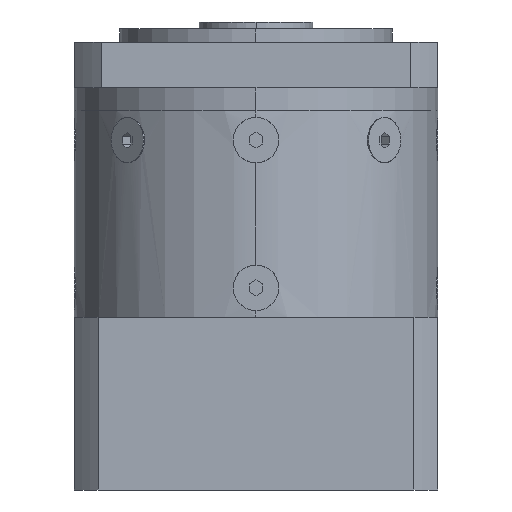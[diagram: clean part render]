
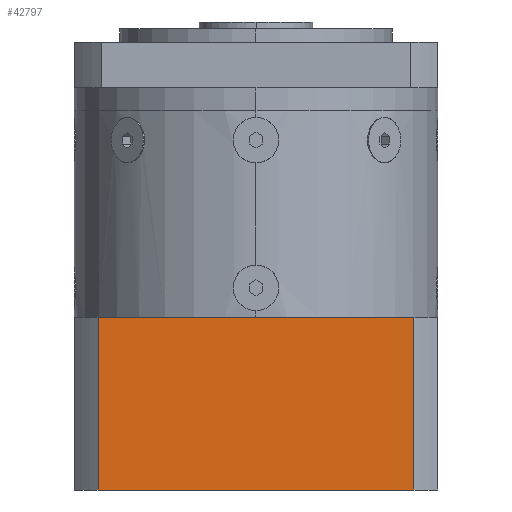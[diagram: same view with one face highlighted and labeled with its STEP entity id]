
A CAD part, left-side view. The second image highlights one B-rep face of the part: STEP entity #42797.
In plain terms, the highlighted planar face has unit normal (-1, 0, 0) as drawn and (0, -1, 0) by its records, which use the part's own axes.
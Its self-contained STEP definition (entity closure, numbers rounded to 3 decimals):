
#880 = EDGE_CURVE ( 'NONE', #39981, #27202, #10183, .T. ) ;
#2502 = EDGE_CURVE ( 'NONE', #3464, #32617, #41901, .T. ) ;
#2924 = VECTOR ( 'NONE', #33254, 1000. ) ;
#3078 = ORIENTED_EDGE ( 'NONE', *, *, #3293, .T. ) ;
#3262 = PLANE ( 'NONE',  #42453 ) ;
#3293 = EDGE_CURVE ( 'NONE', #27202, #3464, #40301, .T. ) ;
#3419 = CARTESIAN_POINT ( 'NONE',  ( -34.771, -40., 0. ) ) ;
#3464 = VERTEX_POINT ( 'NONE', #30947 ) ;
#4557 = VECTOR ( 'NONE', #15479, 1000. ) ;
#5234 = VECTOR ( 'NONE', #24517, 1000. ) ;
#6822 = DIRECTION ( 'NONE',  ( 0., -1., 0. ) ) ;
#10183 = LINE ( 'NONE', #37167, #28865 ) ;
#12608 = CARTESIAN_POINT ( 'NONE',  ( -34.771, -40., -50. ) ) ;
#15479 = DIRECTION ( 'NONE',  ( -1., 0., 0. ) ) ;
#24517 = DIRECTION ( 'NONE',  ( 0., 0., 1. ) ) ;
#27202 = VERTEX_POINT ( 'NONE', #33732 ) ;
#27881 = CARTESIAN_POINT ( 'NONE',  ( -40., -40., -50. ) ) ;
#28865 = VECTOR ( 'NONE', #37154, 1000. ) ;
#30947 = CARTESIAN_POINT ( 'NONE',  ( 34.771, -40., -12. ) ) ;
#31358 = DIRECTION ( 'NONE',  ( 0., 0., -1. ) ) ;
#32617 = VERTEX_POINT ( 'NONE', #36092 ) ;
#33137 = ORIENTED_EDGE ( 'NONE', *, *, #2502, .T. ) ;
#33254 = DIRECTION ( 'NONE',  ( 0., 0., 1. ) ) ;
#33306 = CARTESIAN_POINT ( 'NONE',  ( 34.771, -40., -50. ) ) ;
#33732 = CARTESIAN_POINT ( 'NONE',  ( 34.771, -40., -50. ) ) ;
#35557 = CARTESIAN_POINT ( 'NONE',  ( 0., -40., -12. ) ) ;
#36092 = CARTESIAN_POINT ( 'NONE',  ( -34.771, -40., -12. ) ) ;
#37154 = DIRECTION ( 'NONE',  ( 1., 0., 0. ) ) ;
#37167 = CARTESIAN_POINT ( 'NONE',  ( 0., -40., -50. ) ) ;
#37628 = ORIENTED_EDGE ( 'NONE', *, *, #880, .T. ) ;
#38658 = ORIENTED_EDGE ( 'NONE', *, *, #44059, .F. ) ;
#39981 = VERTEX_POINT ( 'NONE', #12608 ) ;
#40301 = LINE ( 'NONE', #33306, #2924 ) ;
#41901 = LINE ( 'NONE', #35557, #4557 ) ;
#42453 = AXIS2_PLACEMENT_3D ( 'NONE', #27881, #6822, #31358 ) ;
#42585 = LINE ( 'NONE', #3419, #5234 ) ;
#42797 = ADVANCED_FACE ( 'NONE', ( #45405 ), #3262, .T. ) ;
#44059 = EDGE_CURVE ( 'NONE', #39981, #32617, #42585, .T. ) ;
#44974 = EDGE_LOOP ( 'NONE', ( #3078, #33137, #38658, #37628 ) ) ;
#45405 = FACE_OUTER_BOUND ( 'NONE', #44974, .T. ) ;
